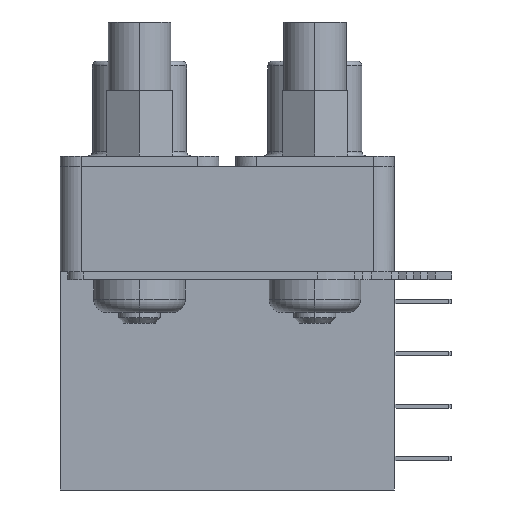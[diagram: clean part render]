
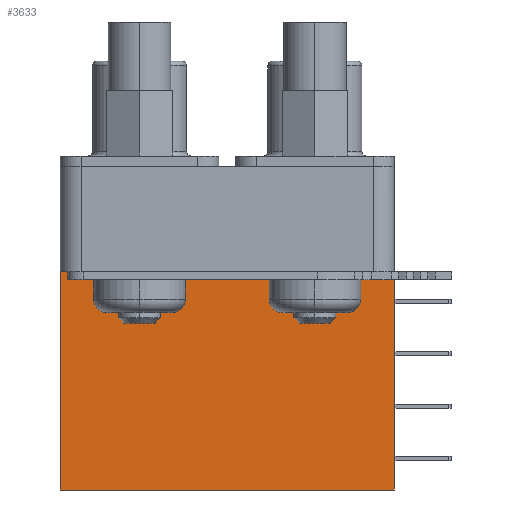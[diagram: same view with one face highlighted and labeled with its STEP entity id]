
A CAD part, left-side view. The second image highlights one B-rep face of the part: STEP entity #3633.
In plain terms, the highlighted planar face has unit normal (-1, 0, 0).
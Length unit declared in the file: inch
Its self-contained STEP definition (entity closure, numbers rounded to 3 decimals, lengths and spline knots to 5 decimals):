
#1600 = ORIENTED_EDGE ( 'NONE', *, *, #4539, .F. ) ;
#3011 = ORIENTED_EDGE ( 'NONE', *, *, #4405, .T. ) ;
#3030 = ORIENTED_EDGE ( 'NONE', *, *, #19900, .F. ) ;
#3256 = VERTEX_POINT ( 'NONE', #10813 ) ;
#3274 = VERTEX_POINT ( 'NONE', #10980 ) ;
#3319 = EDGE_CURVE ( 'NONE', #3274, #3256, #11254, .T. ) ;
#3556 = EDGE_LOOP ( 'NONE', ( #19901, #1600, #3030, #3011 ) ) ;
#3633 = ADVANCED_FACE ( 'NONE', ( #10691 ), #10662, .F. ) ;
#4399 = VERTEX_POINT ( 'NONE', #13819 ) ;
#4405 = EDGE_CURVE ( 'NONE', #4399, #3274, #13851, .T. ) ;
#4493 = VERTEX_POINT ( 'NONE', #14092 ) ;
#4539 = EDGE_CURVE ( 'NONE', #4493, #3256, #14133, .T. ) ;
#10662 = PLANE ( 'NONE',  #10710 ) ;
#10691 = FACE_OUTER_BOUND ( 'NONE', #3556, .T. ) ;
#10709 = CARTESIAN_POINT ( 'NONE',  ( -0.17, 0.1514, -0.618 ) ) ;
#10710 = AXIS2_PLACEMENT_3D ( 'NONE', #10709, #10812, #10811 ) ;
#10811 = DIRECTION ( 'NONE',  ( 0., 1., 0. ) ) ;
#10812 = DIRECTION ( 'NONE',  ( 1., 0., 0. ) ) ;
#10813 = CARTESIAN_POINT ( 'NONE',  ( -0.17, 0.1514, -0.201 ) ) ;
#10980 = CARTESIAN_POINT ( 'NONE',  ( -0.17, -0.4866, -0.201 ) ) ;
#11254 = LINE ( 'NONE', #11322, #11311 ) ;
#11310 = DIRECTION ( 'NONE',  ( 0., 1., 0. ) ) ;
#11311 = VECTOR ( 'NONE', #11310, 39.37008 ) ;
#11322 = CARTESIAN_POINT ( 'NONE',  ( -0.17, 0.1514, -0.201 ) ) ;
#13819 = CARTESIAN_POINT ( 'NONE',  ( -0.17, -0.4866, -0.618 ) ) ;
#13839 = DIRECTION ( 'NONE',  ( 0., 0., 1. ) ) ;
#13840 = VECTOR ( 'NONE', #13839, 39.37008 ) ;
#13841 = CARTESIAN_POINT ( 'NONE',  ( -0.17, -0.4866, -0.618 ) ) ;
#13851 = LINE ( 'NONE', #13841, #13840 ) ;
#14092 = CARTESIAN_POINT ( 'NONE',  ( -0.17, 0.1514, -0.618 ) ) ;
#14130 = DIRECTION ( 'NONE',  ( 0., 0., 1. ) ) ;
#14131 = VECTOR ( 'NONE', #14130, 39.37008 ) ;
#14132 = CARTESIAN_POINT ( 'NONE',  ( -0.17, 0.1514, -0.618 ) ) ;
#14133 = LINE ( 'NONE', #14132, #14131 ) ;
#19900 = EDGE_CURVE ( 'NONE', #4399, #4493, #26448, .T. ) ;
#19901 = ORIENTED_EDGE ( 'NONE', *, *, #3319, .T. ) ;
#26432 = DIRECTION ( 'NONE',  ( 0., 1., 0. ) ) ;
#26433 = VECTOR ( 'NONE', #26432, 39.37008 ) ;
#26434 = CARTESIAN_POINT ( 'NONE',  ( -0.17, 0.1514, -0.618 ) ) ;
#26448 = LINE ( 'NONE', #26434, #26433 ) ;
